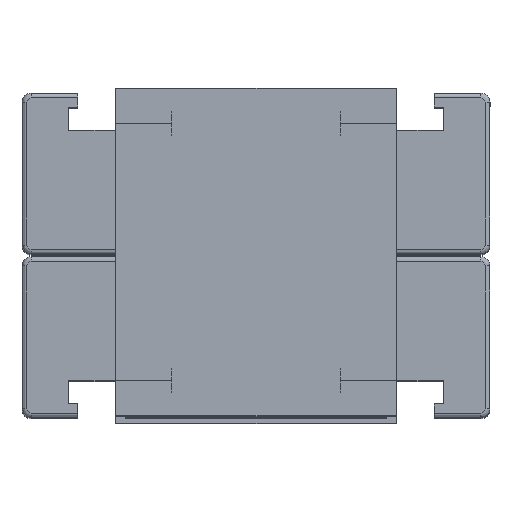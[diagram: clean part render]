
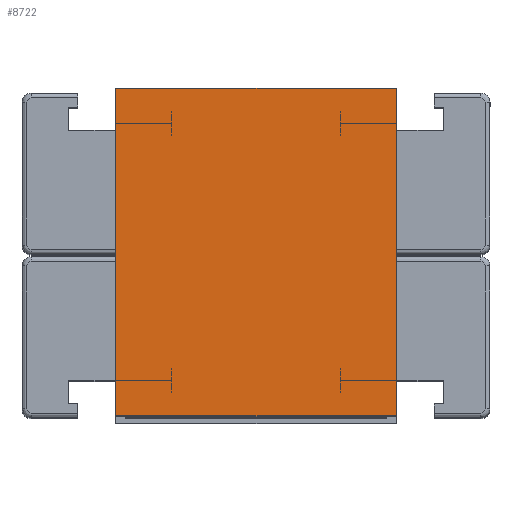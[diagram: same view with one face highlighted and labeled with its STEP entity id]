
A CAD part, top view. The second image highlights one B-rep face of the part: STEP entity #8722.
In plain terms, the highlighted planar face has unit normal (0, 0, 1).
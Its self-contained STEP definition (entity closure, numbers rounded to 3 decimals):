
#782 = EDGE_CURVE ( 'NONE', #7555, #9180, #10028, .T. ) ;
#1111 = CARTESIAN_POINT ( 'NONE',  ( 0., 70., 35. ) ) ;
#1199 = LINE ( 'NONE', #4949, #5911 ) ;
#1386 = EDGE_LOOP ( 'NONE', ( #10717, #9735, #6682, #8005 ) ) ;
#1391 = DIRECTION ( 'NONE',  ( 0., -1., 0. ) ) ;
#1698 = LINE ( 'NONE', #10108, #5256 ) ;
#1932 = LINE ( 'NONE', #5681, #11552 ) ;
#2610 = CARTESIAN_POINT ( 'NONE',  ( 60., 0., 35. ) ) ;
#3109 = VECTOR ( 'NONE', #1391, 1000. ) ;
#4107 = AXIS2_PLACEMENT_3D ( 'NONE', #11599, #6037, #4277 ) ;
#4277 = DIRECTION ( 'NONE',  ( -1., 0., 0. ) ) ;
#4590 = EDGE_CURVE ( 'NONE', #8854, #11023, #1199, .T. ) ;
#4949 = CARTESIAN_POINT ( 'NONE',  ( 0., 0., 35. ) ) ;
#5256 = VECTOR ( 'NONE', #9175, 1000. ) ;
#5681 = CARTESIAN_POINT ( 'NONE',  ( 60., 70., 35. ) ) ;
#5911 = VECTOR ( 'NONE', #6595, 1000. ) ;
#6037 = DIRECTION ( 'NONE',  ( 0., 0., -1. ) ) ;
#6595 = DIRECTION ( 'NONE',  ( 0., -1., 0. ) ) ;
#6600 = DIRECTION ( 'NONE',  ( -1., 0., 0. ) ) ;
#6682 = ORIENTED_EDGE ( 'NONE', *, *, #782, .F. ) ;
#7251 = CARTESIAN_POINT ( 'NONE',  ( 60., 0., 35. ) ) ;
#7555 = VERTEX_POINT ( 'NONE', #11133 ) ;
#8005 = ORIENTED_EDGE ( 'NONE', *, *, #8581, .T. ) ;
#8581 = EDGE_CURVE ( 'NONE', #7555, #8854, #1932, .T. ) ;
#8722 = ADVANCED_FACE ( 'NONE', ( #8898 ), #10652, .F. ) ;
#8854 = VERTEX_POINT ( 'NONE', #1111 ) ;
#8898 = FACE_OUTER_BOUND ( 'NONE', #1386, .T. ) ;
#9075 = EDGE_CURVE ( 'NONE', #9180, #11023, #1698, .T. ) ;
#9175 = DIRECTION ( 'NONE',  ( -1., 0., 0. ) ) ;
#9180 = VERTEX_POINT ( 'NONE', #2610 ) ;
#9735 = ORIENTED_EDGE ( 'NONE', *, *, #9075, .F. ) ;
#9859 = CARTESIAN_POINT ( 'NONE',  ( 0., 0., 35. ) ) ;
#10028 = LINE ( 'NONE', #7251, #3109 ) ;
#10108 = CARTESIAN_POINT ( 'NONE',  ( 60., 0., 35. ) ) ;
#10652 = PLANE ( 'NONE',  #4107 ) ;
#10717 = ORIENTED_EDGE ( 'NONE', *, *, #4590, .T. ) ;
#11023 = VERTEX_POINT ( 'NONE', #9859 ) ;
#11133 = CARTESIAN_POINT ( 'NONE',  ( 60., 70., 35. ) ) ;
#11552 = VECTOR ( 'NONE', #6600, 1000. ) ;
#11599 = CARTESIAN_POINT ( 'NONE',  ( 60., 0., 35. ) ) ;
